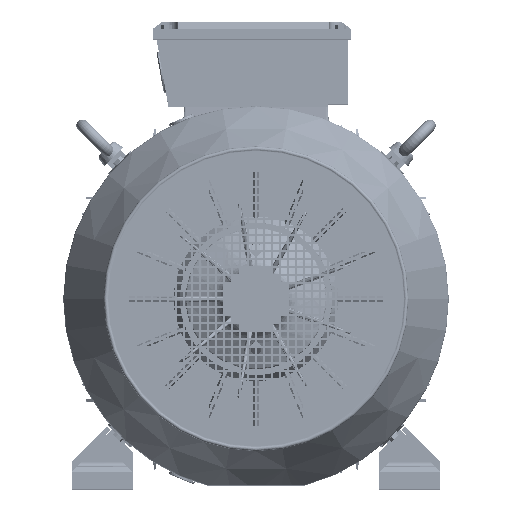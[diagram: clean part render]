
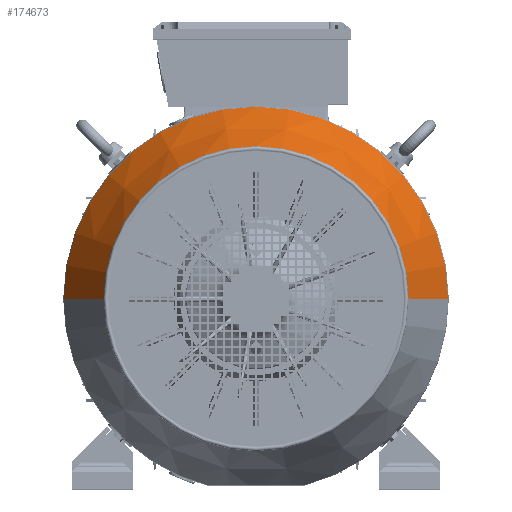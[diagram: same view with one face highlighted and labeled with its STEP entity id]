
A CAD part, top view. The second image highlights one B-rep face of the part: STEP entity #174673.
In plain terms, the highlighted conical face has half-angle 28.793 degrees and reference radius 200.371 mm.
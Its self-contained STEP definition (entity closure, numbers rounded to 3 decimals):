
#20543 = CARTESIAN_POINT ( 'NONE',  ( -216.199, -6.231, 316.775 ) ) ;
#22376 = CARTESIAN_POINT ( 'NONE',  ( 36.135, -6.231, 411.325 ) ) ;
#22710 = DIRECTION ( 'NONE',  ( 0., 0., -1. ) ) ;
#48333 = ORIENTED_EDGE ( 'NONE', *, *, #84566, .T. ) ;
#54062 = FACE_OUTER_BOUND ( 'NONE', #76566, .T. ) ;
#63483 = ORIENTED_EDGE ( 'NONE', *, *, #80121, .F. ) ;
#64182 = CIRCLE ( 'NONE', #136668, 200.371 ) ;
#76566 = EDGE_LOOP ( 'NONE', ( #227242, #48333, #63483, #141438 ) ) ;
#80121 = EDGE_CURVE ( 'NONE', #95224, #120125, #329720, .T. ) ;
#84566 = EDGE_CURVE ( 'NONE', #142113, #120125, #313400, .T. ) ;
#95224 = VERTEX_POINT ( 'NONE', #20543 ) ;
#110686 = AXIS2_PLACEMENT_3D ( 'NONE', #212929, #22710, #319317 ) ;
#112585 = EDGE_CURVE ( 'NONE', #178742, #142113, #64182, .T. ) ;
#120125 = VERTEX_POINT ( 'NONE', #223027 ) ;
#131770 = CARTESIAN_POINT ( 'NONE',  ( 236.506, -6.231, 411.325 ) ) ;
#134315 = DIRECTION ( 'NONE',  ( 0., 0., -1. ) ) ;
#136668 = AXIS2_PLACEMENT_3D ( 'NONE', #22376, #341721, #230201 ) ;
#137204 = CARTESIAN_POINT ( 'NONE',  ( -164.235, -6.231, 411.325 ) ) ;
#141438 = ORIENTED_EDGE ( 'NONE', *, *, #259283, .F. ) ;
#142113 = VERTEX_POINT ( 'NONE', #237229 ) ;
#174673 = ADVANCED_FACE ( 'NONE', ( #54062 ), #339138, .T. ) ;
#177898 = VECTOR ( 'NONE', #243708, 1000. ) ;
#178742 = VERTEX_POINT ( 'NONE', #217021 ) ;
#186734 = CARTESIAN_POINT ( 'NONE',  ( 36.135, -6.231, 316.775 ) ) ;
#212929 = CARTESIAN_POINT ( 'NONE',  ( 36.135, -6.231, 411.325 ) ) ;
#217021 = CARTESIAN_POINT ( 'NONE',  ( -164.235, -6.231, 411.325 ) ) ;
#223027 = CARTESIAN_POINT ( 'NONE',  ( 288.47, -6.231, 316.775 ) ) ;
#227242 = ORIENTED_EDGE ( 'NONE', *, *, #112585, .T. ) ;
#230201 = DIRECTION ( 'NONE',  ( -1., 0., 0. ) ) ;
#237229 = CARTESIAN_POINT ( 'NONE',  ( 236.506, -6.231, 411.325 ) ) ;
#238275 = DIRECTION ( 'NONE',  ( 0.482, 0., -0.876 ) ) ;
#243708 = DIRECTION ( 'NONE',  ( -0.482, 0., -0.876 ) ) ;
#247151 = LINE ( 'NONE', #137204, #177898 ) ;
#259283 = EDGE_CURVE ( 'NONE', #178742, #95224, #247151, .T. ) ;
#260203 = VECTOR ( 'NONE', #238275, 1000. ) ;
#273988 = AXIS2_PLACEMENT_3D ( 'NONE', #186734, #134315, #293167 ) ;
#293167 = DIRECTION ( 'NONE',  ( -1., 0., 0. ) ) ;
#313400 = LINE ( 'NONE', #131770, #260203 ) ;
#319317 = DIRECTION ( 'NONE',  ( -1., 0., 0. ) ) ;
#329720 = CIRCLE ( 'NONE', #273988, 252.335 ) ;
#339138 = CONICAL_SURFACE ( 'NONE', #110686, 200.371, 0.503 ) ;
#341721 = DIRECTION ( 'NONE',  ( 0., 0., -1. ) ) ;
